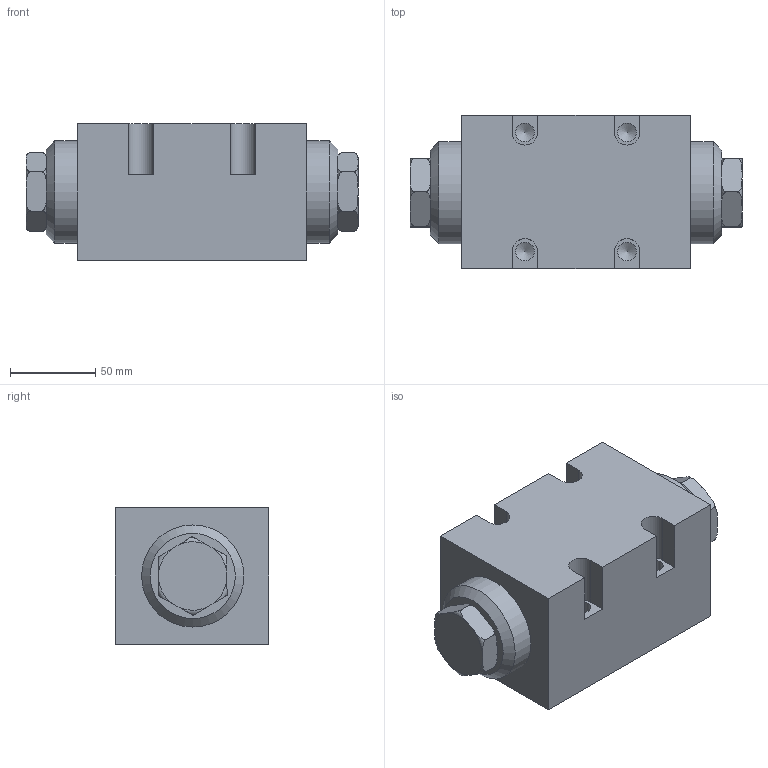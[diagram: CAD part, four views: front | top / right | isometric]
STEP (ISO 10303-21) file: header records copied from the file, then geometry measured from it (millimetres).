
FILE_DESCRIPTION(/* description */ (''),/* implementation_level */ '2;1');
FILE_NAME(/* name */ '17-1.prt.stp',/* time_stamp */ '2023-05-05T13:53:32+08:00',/* author */ (''),/* organization */ (''),/* preprocessor_version */ 'ST-DEVELOPER v16.7',/* originating_system */ 'SIEMENS PLM Software NX 12.0',/* authorisation */ '');
FILE_SCHEMA (('AUTOMOTIVE_DESIGN { 1 0 10303 214 3 1 1 1 }'));
Length unit declared in the file: millimetre
Products named in the file (1): 17-1
Bounding box: 195 x 90 x 80 mm (x, y, z)
Volume: 1058011.1 mm3; surface area: 84380.3 mm2
Topology: 3 solids, 3 shells, 88 faces, 231 edges, 154 vertices
Faces by surface type: plane 39, torus 24, cylinder 16, cone 9
Full cylindrical faces by diameter (mm): 6 x2, 8 x1, 11 x4, 14 x2, 16 x1, 60 x2
Entity records: 2862 total; most frequent: CARTESIAN_POINT 860, ORIENTED_EDGE 388, DIRECTION 382, EDGE_CURVE 194, AXIS2_PLACEMENT_3D 147, VERTEX_POINT 145, EDGE_LOOP 114, ADVANCED_FACE 88
